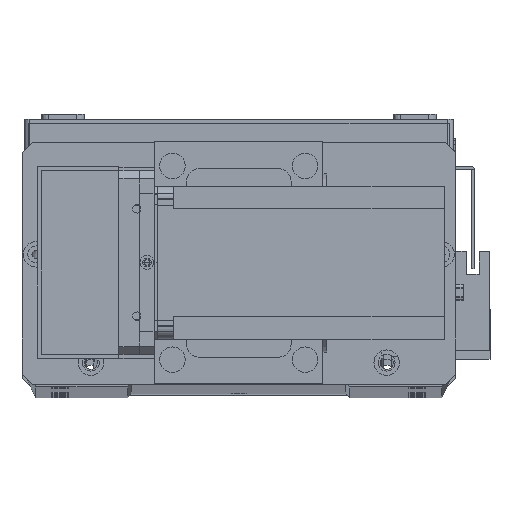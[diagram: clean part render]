
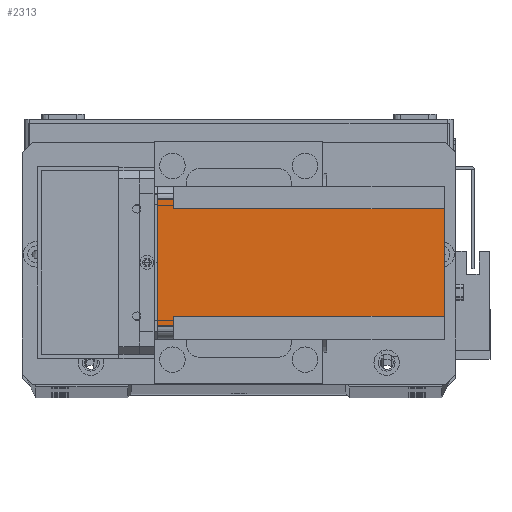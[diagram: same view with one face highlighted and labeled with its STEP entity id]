
A CAD part, top view. The second image highlights one B-rep face of the part: STEP entity #2313.
In plain terms, the highlighted planar face has unit normal (0, 0, 1) as drawn and (-1, 0, 0) by its records, which use the part's own axes.
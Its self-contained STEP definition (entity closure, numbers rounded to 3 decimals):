
#1426 = VERTEX_POINT ( 'NONE', #29052 ) ;
#1440 = CARTESIAN_POINT ( 'NONE',  ( 0., 0., -112.5 ) ) ;
#1685 = LINE ( 'NONE', #17238, #7821 ) ;
#2313 = ADVANCED_FACE ( 'NONE', ( #26715 ), #25231, .T. ) ;
#2476 = CARTESIAN_POINT ( 'NONE',  ( 0., 9., -6.5 ) ) ;
#3095 = LINE ( 'NONE', #14735, #24796 ) ;
#3493 = EDGE_CURVE ( 'NONE', #12117, #8973, #1685, .T. ) ;
#4525 = VECTOR ( 'NONE', #25547, 1000. ) ;
#5488 = CARTESIAN_POINT ( 'NONE',  ( 0., 0., -112.5 ) ) ;
#6152 = EDGE_CURVE ( 'NONE', #12117, #1426, #19511, .T. ) ;
#6762 = EDGE_CURVE ( 'NONE', #31593, #12924, #3095, .T. ) ;
#6830 = DIRECTION ( 'NONE',  ( 0., 1., 0. ) ) ;
#6877 = ORIENTED_EDGE ( 'NONE', *, *, #6152, .F. ) ;
#7821 = VECTOR ( 'NONE', #25031, 1000. ) ;
#8835 = CARTESIAN_POINT ( 'NONE',  ( 0., 0., 0. ) ) ;
#8973 = VERTEX_POINT ( 'NONE', #25758 ) ;
#8978 = VECTOR ( 'NONE', #28050, 1000. ) ;
#9271 = ORIENTED_EDGE ( 'NONE', *, *, #23287, .F. ) ;
#9524 = DIRECTION ( 'NONE',  ( -1., 0., 0. ) ) ;
#10015 = VECTOR ( 'NONE', #27935, 1000. ) ;
#10062 = ORIENTED_EDGE ( 'NONE', *, *, #26639, .F. ) ;
#10363 = AXIS2_PLACEMENT_3D ( 'NONE', #1440, #9524, #27838 ) ;
#11302 = EDGE_CURVE ( 'NONE', #16739, #12924, #33625, .T. ) ;
#11437 = LINE ( 'NONE', #28149, #4525 ) ;
#12117 = VERTEX_POINT ( 'NONE', #19303 ) ;
#12924 = VERTEX_POINT ( 'NONE', #22663 ) ;
#14735 = CARTESIAN_POINT ( 'NONE',  ( 0., 9., -112.5 ) ) ;
#15007 = CARTESIAN_POINT ( 'NONE',  ( 0., 51., -112.5 ) ) ;
#16293 = ORIENTED_EDGE ( 'NONE', *, *, #6762, .F. ) ;
#16739 = VERTEX_POINT ( 'NONE', #27915 ) ;
#16968 = ORIENTED_EDGE ( 'NONE', *, *, #18578, .T. ) ;
#17238 = CARTESIAN_POINT ( 'NONE',  ( 0., 55., -112.5 ) ) ;
#18578 = EDGE_CURVE ( 'NONE', #27190, #1426, #11437, .T. ) ;
#19303 = CARTESIAN_POINT ( 'NONE',  ( 0., 55., 0. ) ) ;
#19511 = LINE ( 'NONE', #8835, #33378 ) ;
#19643 = EDGE_LOOP ( 'NONE', ( #10062, #16968, #6877, #22604, #21388, #9271, #29567, #16293 ) ) ;
#20309 = LINE ( 'NONE', #22509, #33375 ) ;
#21388 = ORIENTED_EDGE ( 'NONE', *, *, #26078, .F. ) ;
#21832 = CARTESIAN_POINT ( 'NONE',  ( 0., 51., -6.5 ) ) ;
#22441 = VERTEX_POINT ( 'NONE', #21832 ) ;
#22509 = CARTESIAN_POINT ( 'NONE',  ( 0., 60., -6.5 ) ) ;
#22604 = ORIENTED_EDGE ( 'NONE', *, *, #3493, .T. ) ;
#22663 = CARTESIAN_POINT ( 'NONE',  ( 0., 9., -112.5 ) ) ;
#23287 = EDGE_CURVE ( 'NONE', #16739, #22441, #29857, .T. ) ;
#24530 = DIRECTION ( 'NONE',  ( 0., -1., 0. ) ) ;
#24796 = VECTOR ( 'NONE', #33019, 1000. ) ;
#25031 = DIRECTION ( 'NONE',  ( 0., 0., -1. ) ) ;
#25181 = CARTESIAN_POINT ( 'NONE',  ( 0., 5., -6.5 ) ) ;
#25231 = PLANE ( 'NONE',  #10363 ) ;
#25343 = CARTESIAN_POINT ( 'NONE',  ( 0., 0., -6.5 ) ) ;
#25547 = DIRECTION ( 'NONE',  ( 0., 0., 1. ) ) ;
#25758 = CARTESIAN_POINT ( 'NONE',  ( 0., 55., -6.5 ) ) ;
#26078 = EDGE_CURVE ( 'NONE', #22441, #8973, #20309, .T. ) ;
#26557 = DIRECTION ( 'NONE',  ( 0., -1., 0. ) ) ;
#26639 = EDGE_CURVE ( 'NONE', #27190, #31593, #31703, .T. ) ;
#26715 = FACE_OUTER_BOUND ( 'NONE', #19643, .T. ) ;
#27190 = VERTEX_POINT ( 'NONE', #25181 ) ;
#27515 = VECTOR ( 'NONE', #26557, 1000. ) ;
#27838 = DIRECTION ( 'NONE',  ( 0., -1., 0. ) ) ;
#27915 = CARTESIAN_POINT ( 'NONE',  ( 0., 51., -112.5 ) ) ;
#27935 = DIRECTION ( 'NONE',  ( 0., 1., 0. ) ) ;
#28050 = DIRECTION ( 'NONE',  ( 0., 0., 1. ) ) ;
#28149 = CARTESIAN_POINT ( 'NONE',  ( 0., 5., -112.5 ) ) ;
#29052 = CARTESIAN_POINT ( 'NONE',  ( 0., 5., 0. ) ) ;
#29567 = ORIENTED_EDGE ( 'NONE', *, *, #11302, .T. ) ;
#29857 = LINE ( 'NONE', #15007, #8978 ) ;
#31593 = VERTEX_POINT ( 'NONE', #2476 ) ;
#31703 = LINE ( 'NONE', #25343, #10015 ) ;
#33019 = DIRECTION ( 'NONE',  ( 0., 0., -1. ) ) ;
#33375 = VECTOR ( 'NONE', #6830, 1000. ) ;
#33378 = VECTOR ( 'NONE', #24530, 1000. ) ;
#33625 = LINE ( 'NONE', #5488, #27515 ) ;
